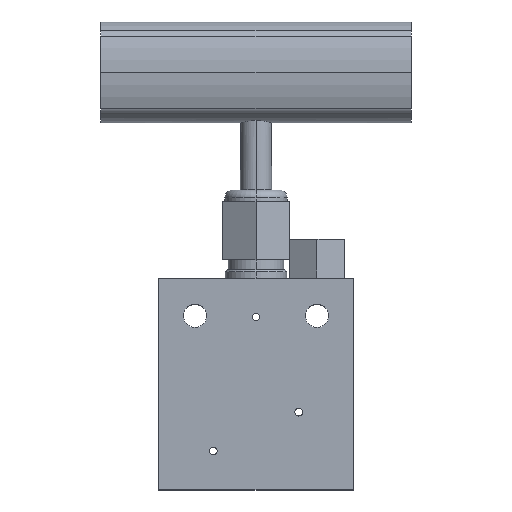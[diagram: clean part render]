
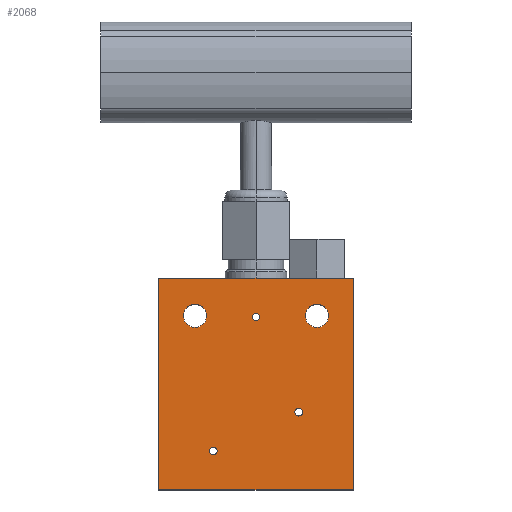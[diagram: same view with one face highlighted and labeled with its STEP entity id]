
A CAD part, top view. The second image highlights one B-rep face of the part: STEP entity #2068.
In plain terms, the highlighted planar face has unit normal (0, 0, 1).
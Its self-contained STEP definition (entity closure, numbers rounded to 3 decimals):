
#25 = VERTEX_POINT ( 'NONE', #44 ) ;
#40 = DIRECTION ( 'NONE',  ( 1., 0., 0. ) ) ;
#44 = CARTESIAN_POINT ( 'NONE',  ( -12., -17.25, 10. ) ) ;
#98 = DIRECTION ( 'NONE',  ( 1., 0., 0. ) ) ;
#118 = FACE_BOUND ( 'NONE', #2224, .T. ) ;
#149 = CIRCLE ( 'NONE', #334, 1. ) ;
#153 = CARTESIAN_POINT ( 'NONE',  ( 11., -7.25, 10. ) ) ;
#189 = EDGE_CURVE ( 'NONE', #25, #306, #2193, .T. ) ;
#234 = DIRECTION ( 'NONE',  ( 0., 0., 1. ) ) ;
#250 = CIRCLE ( 'NONE', #429, 1. ) ;
#261 = CIRCLE ( 'NONE', #1704, 3. ) ;
#275 = CARTESIAN_POINT ( 'NONE',  ( 25., -27.25, 10. ) ) ;
#306 = VERTEX_POINT ( 'NONE', #2167 ) ;
#316 = EDGE_CURVE ( 'NONE', #1940, #1527, #2149, .T. ) ;
#334 = AXIS2_PLACEMENT_3D ( 'NONE', #2257, #2714, #1639 ) ;
#337 = DIRECTION ( 'NONE',  ( 0., 0., -1. ) ) ;
#342 = CIRCLE ( 'NONE', #427, 1. ) ;
#376 = DIRECTION ( 'NONE',  ( 0., 0., -1. ) ) ;
#406 = EDGE_LOOP ( 'NONE', ( #1978, #2631, #2248, #725 ) ) ;
#427 = AXIS2_PLACEMENT_3D ( 'NONE', #738, #2212, #98 ) ;
#429 = AXIS2_PLACEMENT_3D ( 'NONE', #940, #1344, #957 ) ;
#438 = ORIENTED_EDGE ( 'NONE', *, *, #1180, .F. ) ;
#490 = EDGE_LOOP ( 'NONE', ( #438, #2711 ) ) ;
#496 = EDGE_CURVE ( 'NONE', #1802, #1025, #1577, .T. ) ;
#514 = EDGE_CURVE ( 'NONE', #995, #2729, #261, .T. ) ;
#546 = CARTESIAN_POINT ( 'NONE',  ( 25., 27.25, 10. ) ) ;
#551 = DIRECTION ( 'NONE',  ( 0., 1., 0. ) ) ;
#554 = CARTESIAN_POINT ( 'NONE',  ( 0., 0., 10. ) ) ;
#571 = DIRECTION ( 'NONE',  ( 0., 0., 1. ) ) ;
#607 = CIRCLE ( 'NONE', #973, 3. ) ;
#635 = VECTOR ( 'NONE', #551, 1000. ) ;
#637 = VECTOR ( 'NONE', #1471, 1000. ) ;
#696 = CARTESIAN_POINT ( 'NONE',  ( 12., -7.25, 10. ) ) ;
#711 = EDGE_LOOP ( 'NONE', ( #2506, #1490 ) ) ;
#725 = ORIENTED_EDGE ( 'NONE', *, *, #316, .T. ) ;
#738 = CARTESIAN_POINT ( 'NONE',  ( 11., -7.25, 10. ) ) ;
#760 = CARTESIAN_POINT ( 'NONE',  ( 18.7, 17.55, 10. ) ) ;
#769 = PLANE ( 'NONE',  #915 ) ;
#822 = DIRECTION ( 'NONE',  ( 1., 0., 0. ) ) ;
#836 = AXIS2_PLACEMENT_3D ( 'NONE', #2092, #337, #2079 ) ;
#843 = VERTEX_POINT ( 'NONE', #2223 ) ;
#848 = DIRECTION ( 'NONE',  ( 1., 0., 0. ) ) ;
#915 = AXIS2_PLACEMENT_3D ( 'NONE', #554, #1007, #1217 ) ;
#940 = CARTESIAN_POINT ( 'NONE',  ( 0., 17.25, 10. ) ) ;
#957 = DIRECTION ( 'NONE',  ( 1., 0., 0. ) ) ;
#973 = AXIS2_PLACEMENT_3D ( 'NONE', #1854, #376, #1221 ) ;
#995 = VERTEX_POINT ( 'NONE', #1144 ) ;
#1007 = DIRECTION ( 'NONE',  ( 0., 0., 1. ) ) ;
#1025 = VERTEX_POINT ( 'NONE', #2424 ) ;
#1029 = DIRECTION ( 'NONE',  ( 0., 0., 1. ) ) ;
#1086 = CIRCLE ( 'NONE', #2665, 1. ) ;
#1144 = CARTESIAN_POINT ( 'NONE',  ( -12.7, 17.55, 10. ) ) ;
#1171 = CARTESIAN_POINT ( 'NONE',  ( 25., 27.25, 10. ) ) ;
#1180 = EDGE_CURVE ( 'NONE', #2685, #843, #1721, .T. ) ;
#1189 = EDGE_CURVE ( 'NONE', #1025, #1940, #2537, .T. ) ;
#1217 = DIRECTION ( 'NONE',  ( 1., 0., 0. ) ) ;
#1221 = DIRECTION ( 'NONE',  ( -1., 0., 0. ) ) ;
#1249 = VECTOR ( 'NONE', #2238, 1000. ) ;
#1257 = VERTEX_POINT ( 'NONE', #696 ) ;
#1282 = DIRECTION ( 'NONE',  ( 0., 0., 1. ) ) ;
#1344 = DIRECTION ( 'NONE',  ( 0., 0., 1. ) ) ;
#1355 = VERTEX_POINT ( 'NONE', #2420 ) ;
#1373 = EDGE_CURVE ( 'NONE', #1257, #1355, #342, .T. ) ;
#1380 = CARTESIAN_POINT ( 'NONE',  ( -25., 27.25, 10. ) ) ;
#1396 = CARTESIAN_POINT ( 'NONE',  ( -15.7, 17.55, 10. ) ) ;
#1404 = FACE_BOUND ( 'NONE', #490, .T. ) ;
#1466 = AXIS2_PLACEMENT_3D ( 'NONE', #2289, #571, #2260 ) ;
#1471 = DIRECTION ( 'NONE',  ( 0., -1., 0. ) ) ;
#1490 = ORIENTED_EDGE ( 'NONE', *, *, #189, .F. ) ;
#1527 = VERTEX_POINT ( 'NONE', #275 ) ;
#1561 = EDGE_CURVE ( 'NONE', #843, #2685, #250, .T. ) ;
#1577 = LINE ( 'NONE', #1380, #1249 ) ;
#1583 = CARTESIAN_POINT ( 'NONE',  ( -25., -27.25, 10. ) ) ;
#1597 = ORIENTED_EDGE ( 'NONE', *, *, #1688, .F. ) ;
#1614 = FACE_BOUND ( 'NONE', #711, .T. ) ;
#1624 = ORIENTED_EDGE ( 'NONE', *, *, #1707, .T. ) ;
#1639 = DIRECTION ( 'NONE',  ( 1., 0., 0. ) ) ;
#1688 = EDGE_CURVE ( 'NONE', #2729, #995, #2052, .T. ) ;
#1693 = EDGE_CURVE ( 'NONE', #1743, #2251, #2542, .T. ) ;
#1699 = CARTESIAN_POINT ( 'NONE',  ( 0., 17.25, 10. ) ) ;
#1704 = AXIS2_PLACEMENT_3D ( 'NONE', #1396, #1973, #40 ) ;
#1707 = EDGE_CURVE ( 'NONE', #2251, #1743, #607, .T. ) ;
#1721 = CIRCLE ( 'NONE', #2668, 1. ) ;
#1743 = VERTEX_POINT ( 'NONE', #760 ) ;
#1802 = VERTEX_POINT ( 'NONE', #546 ) ;
#1854 = CARTESIAN_POINT ( 'NONE',  ( 15.7, 17.55, 10. ) ) ;
#1879 = CARTESIAN_POINT ( 'NONE',  ( -11., -17.25, 10. ) ) ;
#1919 = CARTESIAN_POINT ( 'NONE',  ( -25., -27.25, 10. ) ) ;
#1931 = CARTESIAN_POINT ( 'NONE',  ( -25., 27.25, 10. ) ) ;
#1940 = VERTEX_POINT ( 'NONE', #1583 ) ;
#1973 = DIRECTION ( 'NONE',  ( 0., 0., 1. ) ) ;
#1974 = VECTOR ( 'NONE', #2375, 1000. ) ;
#1978 = ORIENTED_EDGE ( 'NONE', *, *, #2497, .T. ) ;
#2052 = CIRCLE ( 'NONE', #1466, 3. ) ;
#2068 = ADVANCED_FACE ( 'NONE', ( #2512, #1614, #1404, #118, #2075, #2486 ), #769, .T. ) ;
#2069 = ORIENTED_EDGE ( 'NONE', *, *, #514, .F. ) ;
#2075 = FACE_BOUND ( 'NONE', #2720, .T. ) ;
#2079 = DIRECTION ( 'NONE',  ( -1., 0., 0. ) ) ;
#2092 = CARTESIAN_POINT ( 'NONE',  ( 15.7, 17.55, 10. ) ) ;
#2149 = LINE ( 'NONE', #1919, #1974 ) ;
#2160 = EDGE_CURVE ( 'NONE', #306, #25, #149, .T. ) ;
#2162 = ORIENTED_EDGE ( 'NONE', *, *, #1693, .T. ) ;
#2167 = CARTESIAN_POINT ( 'NONE',  ( -10., -17.25, 10. ) ) ;
#2193 = CIRCLE ( 'NONE', #2597, 1. ) ;
#2212 = DIRECTION ( 'NONE',  ( 0., 0., 1. ) ) ;
#2222 = CARTESIAN_POINT ( 'NONE',  ( 1., 17.25, 10. ) ) ;
#2223 = CARTESIAN_POINT ( 'NONE',  ( -1., 17.25, 10. ) ) ;
#2224 = EDGE_LOOP ( 'NONE', ( #2162, #1624 ) ) ;
#2238 = DIRECTION ( 'NONE',  ( -1., 0., 0. ) ) ;
#2248 = ORIENTED_EDGE ( 'NONE', *, *, #1189, .T. ) ;
#2251 = VERTEX_POINT ( 'NONE', #2750 ) ;
#2254 = LINE ( 'NONE', #1171, #635 ) ;
#2257 = CARTESIAN_POINT ( 'NONE',  ( -11., -17.25, 10. ) ) ;
#2260 = DIRECTION ( 'NONE',  ( 1., 0., 0. ) ) ;
#2289 = CARTESIAN_POINT ( 'NONE',  ( -15.7, 17.55, 10. ) ) ;
#2374 = ORIENTED_EDGE ( 'NONE', *, *, #2573, .F. ) ;
#2375 = DIRECTION ( 'NONE',  ( 1., 0., 0. ) ) ;
#2415 = CARTESIAN_POINT ( 'NONE',  ( -18.7, 17.55, 10. ) ) ;
#2420 = CARTESIAN_POINT ( 'NONE',  ( 10., -7.25, 10. ) ) ;
#2424 = CARTESIAN_POINT ( 'NONE',  ( -25., 27.25, 10. ) ) ;
#2425 = ORIENTED_EDGE ( 'NONE', *, *, #1373, .F. ) ;
#2486 = FACE_OUTER_BOUND ( 'NONE', #406, .T. ) ;
#2497 = EDGE_CURVE ( 'NONE', #1527, #1802, #2254, .T. ) ;
#2506 = ORIENTED_EDGE ( 'NONE', *, *, #2160, .F. ) ;
#2512 = FACE_BOUND ( 'NONE', #2559, .T. ) ;
#2537 = LINE ( 'NONE', #1931, #637 ) ;
#2542 = CIRCLE ( 'NONE', #836, 3. ) ;
#2559 = EDGE_LOOP ( 'NONE', ( #2425, #2374 ) ) ;
#2573 = EDGE_CURVE ( 'NONE', #1355, #1257, #1086, .T. ) ;
#2597 = AXIS2_PLACEMENT_3D ( 'NONE', #1879, #1029, #822 ) ;
#2631 = ORIENTED_EDGE ( 'NONE', *, *, #496, .T. ) ;
#2665 = AXIS2_PLACEMENT_3D ( 'NONE', #153, #234, #2747 ) ;
#2668 = AXIS2_PLACEMENT_3D ( 'NONE', #1699, #1282, #848 ) ;
#2685 = VERTEX_POINT ( 'NONE', #2222 ) ;
#2711 = ORIENTED_EDGE ( 'NONE', *, *, #1561, .F. ) ;
#2714 = DIRECTION ( 'NONE',  ( 0., 0., 1. ) ) ;
#2720 = EDGE_LOOP ( 'NONE', ( #2069, #1597 ) ) ;
#2729 = VERTEX_POINT ( 'NONE', #2415 ) ;
#2747 = DIRECTION ( 'NONE',  ( 1., 0., 0. ) ) ;
#2750 = CARTESIAN_POINT ( 'NONE',  ( 12.7, 17.55, 10. ) ) ;
